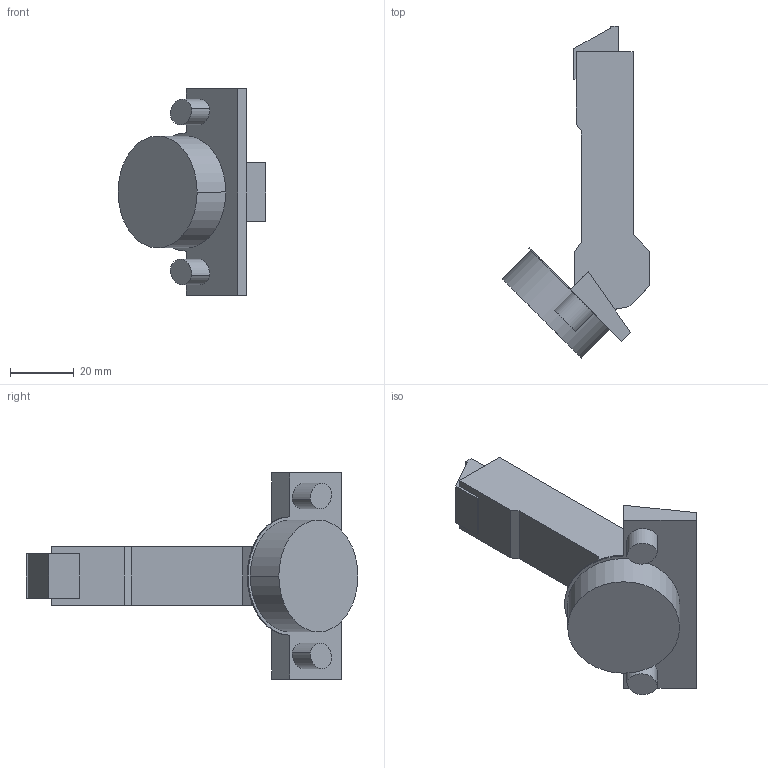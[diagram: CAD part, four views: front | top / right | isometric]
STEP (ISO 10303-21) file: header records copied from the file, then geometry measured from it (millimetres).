
FILE_DESCRIPTION (( 'STEP AP214' ), '1' );
FILE_NAME ('Scharnier T Impresso 110°_+45° HS_BB, aufliegend, KMPL-37, H00.step', '2018-09-19T13:18:24', ( '' ), ( '' ), 'SwSTEP 2.0', 'SolidWorks 2017', '' );
FILE_SCHEMA (( 'AUTOMOTIVE_DESIGN' ));
Length unit declared in the file: millimetre
Products named in the file (1): Scharnier T Impresso 110°_+45° HS_BB, aufliegend, KMPL-37, H00
Bounding box: 46.27 x 103.84 x 64.5 mm (x, y, z)
Volume: 48173.9 mm3; surface area: 13009.7 mm2
Topology: 1 solids, 1 shells, 52 faces, 132 edges, 88 vertices
Faces by surface type: plane 37, cylinder 15
Entity records: 1600 total; most frequent: CARTESIAN_POINT 273, DIRECTION 268, ORIENTED_EDGE 264, EDGE_CURVE 132, LINE 102, VECTOR 102, VERTEX_POINT 88, AXIS2_PLACEMENT_3D 83
